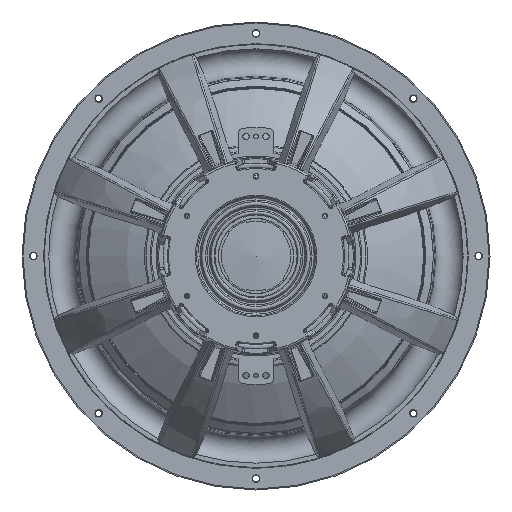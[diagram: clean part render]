
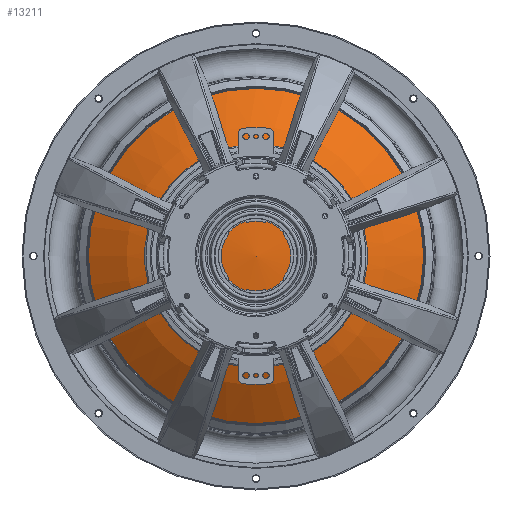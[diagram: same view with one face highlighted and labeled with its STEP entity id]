
A CAD part, front view. The second image highlights one B-rep face of the part: STEP entity #13211.
In plain terms, the highlighted spherical face has radius 288.181 mm.
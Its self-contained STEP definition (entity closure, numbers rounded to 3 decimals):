
#22=SPHERICAL_SURFACE('',#14453,288.181);
#2717=FACE_OUTER_BOUND('',#3515,.T.);
#3515=EDGE_LOOP('',(#10494,#10495,#10496,#10497));
#4471=CIRCLE('',#14454,168.475);
#4472=CIRCLE('',#14455,168.475);
#4473=CIRCLE('',#14456,288.181);
#5685=VERTEX_POINT('',#35906);
#5686=VERTEX_POINT('',#35907);
#5687=VERTEX_POINT('',#35910);
#7422=EDGE_CURVE('',#5685,#5686,#4471,.T.);
#7423=EDGE_CURVE('',#5686,#5685,#4472,.T.);
#7424=EDGE_CURVE('',#5687,#5685,#4473,.T.);
#10494=ORIENTED_EDGE('',*,*,#7422,.T.);
#10495=ORIENTED_EDGE('',*,*,#7423,.T.);
#10496=ORIENTED_EDGE('',*,*,#7424,.F.);
#10497=ORIENTED_EDGE('',*,*,#7424,.T.);
#13211=ADVANCED_FACE('',(#2717),#22,.T.);
#14453=AXIS2_PLACEMENT_3D('',#35905,#17142,#17143);
#14454=AXIS2_PLACEMENT_3D('',#35908,#17144,#17145);
#14455=AXIS2_PLACEMENT_3D('',#35909,#17146,#17147);
#14456=AXIS2_PLACEMENT_3D('',#35911,#17148,#17149);
#17142=DIRECTION('center_axis',(0.,-1.,0.));
#17143=DIRECTION('ref_axis',(-1.,0.,0.));
#17144=DIRECTION('center_axis',(0.,-1.,0.));
#17145=DIRECTION('ref_axis',(1.,0.,0.));
#17146=DIRECTION('center_axis',(0.,-1.,0.));
#17147=DIRECTION('ref_axis',(1.,0.,0.));
#17148=DIRECTION('center_axis',(0.,0.,1.));
#17149=DIRECTION('ref_axis',(1.,0.,0.));
#35905=CARTESIAN_POINT('Origin',(0.,379.781,0.));
#35906=CARTESIAN_POINT('',(168.475,145.977,0.));
#35907=CARTESIAN_POINT('',(-168.475,145.977,0.192));
#35908=CARTESIAN_POINT('Origin',(0.,145.977,0.));
#35909=CARTESIAN_POINT('Origin',(0.,145.977,0.));
#35910=CARTESIAN_POINT('',(0.,91.6,0.));
#35911=CARTESIAN_POINT('Origin',(0.,379.781,0.));
